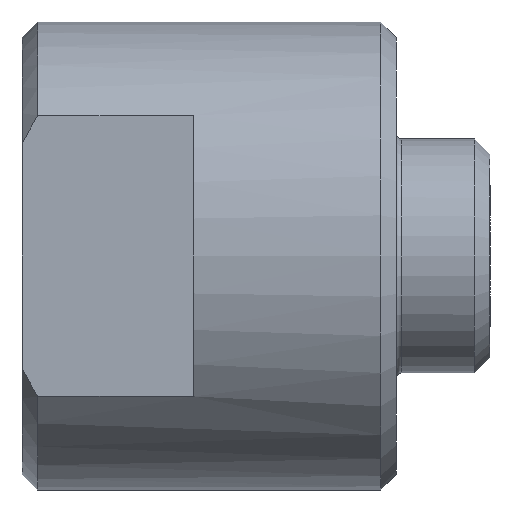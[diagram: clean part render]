
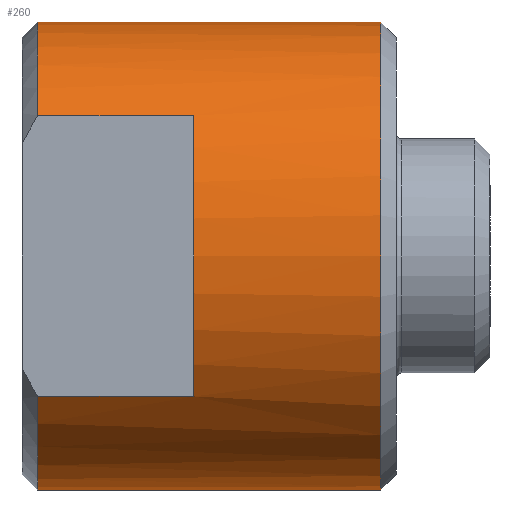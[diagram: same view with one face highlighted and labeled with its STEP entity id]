
A CAD part, left-side view. The second image highlights one B-rep face of the part: STEP entity #260.
In plain terms, the highlighted cylindrical face has radius 15 mm (diameter 30 mm), a partial arc.
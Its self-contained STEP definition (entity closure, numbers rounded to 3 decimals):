
#2 = DIRECTION ( 'NONE',  ( 0., -1., 0. ) ) ;
#29 = ORIENTED_EDGE ( 'NONE', *, *, #751, .T. ) ;
#74 = DIRECTION ( 'NONE',  ( 0., 1., 0. ) ) ;
#83 = LINE ( 'NONE', #415, #95 ) ;
#88 = CARTESIAN_POINT ( 'NONE',  ( 0., 29., -15. ) ) ;
#89 = EDGE_LOOP ( 'NONE', ( #375, #29, #368, #542, #588, #987, #198, #822 ) ) ;
#95 = VECTOR ( 'NONE', #2, 1000. ) ;
#118 = EDGE_CURVE ( 'NONE', #228, #859, #482, .T. ) ;
#144 = AXIS2_PLACEMENT_3D ( 'NONE', #497, #171, #756 ) ;
#165 = EDGE_CURVE ( 'NONE', #660, #920, #994, .T. ) ;
#171 = DIRECTION ( 'NONE',  ( 0., -1., 0. ) ) ;
#181 = AXIS2_PLACEMENT_3D ( 'NONE', #619, #805, #1021 ) ;
#186 = CARTESIAN_POINT ( 'NONE',  ( 0., 29., 0. ) ) ;
#195 = CIRCLE ( 'NONE', #181, 15. ) ;
#198 = ORIENTED_EDGE ( 'NONE', *, *, #657, .T. ) ;
#214 = CARTESIAN_POINT ( 'NONE',  ( -12., 19., -9. ) ) ;
#216 = EDGE_CURVE ( 'NONE', #447, #573, #488, .T. ) ;
#219 = CARTESIAN_POINT ( 'NONE',  ( 0., 7., 15. ) ) ;
#228 = VERTEX_POINT ( 'NONE', #973 ) ;
#237 = FACE_OUTER_BOUND ( 'NONE', #89, .T. ) ;
#258 = VERTEX_POINT ( 'NONE', #895 ) ;
#259 = EDGE_CURVE ( 'NONE', #258, #920, #419, .T. ) ;
#260 = ADVANCED_FACE ( 'NONE', ( #237 ), #416, .T. ) ;
#300 = VECTOR ( 'NONE', #431, 1000. ) ;
#325 = CARTESIAN_POINT ( 'NONE',  ( 0., 30., 15. ) ) ;
#329 = CARTESIAN_POINT ( 'NONE',  ( 0., 7., -15. ) ) ;
#336 = DIRECTION ( 'NONE',  ( 0., -1., 0. ) ) ;
#368 = ORIENTED_EDGE ( 'NONE', *, *, #118, .F. ) ;
#375 = ORIENTED_EDGE ( 'NONE', *, *, #259, .F. ) ;
#403 = EDGE_CURVE ( 'NONE', #868, #228, #195, .T. ) ;
#415 = CARTESIAN_POINT ( 'NONE',  ( 0., 30., -15. ) ) ;
#416 = CYLINDRICAL_SURFACE ( 'NONE', #930, 15. ) ;
#419 = LINE ( 'NONE', #325, #300 ) ;
#431 = DIRECTION ( 'NONE',  ( 0., -1., 0. ) ) ;
#447 = VERTEX_POINT ( 'NONE', #713 ) ;
#475 = DIRECTION ( 'NONE',  ( 0., -1., 0. ) ) ;
#482 = LINE ( 'NONE', #810, #675 ) ;
#488 = CIRCLE ( 'NONE', #144, 15. ) ;
#497 = CARTESIAN_POINT ( 'NONE',  ( 0., 29., 0. ) ) ;
#520 = VECTOR ( 'NONE', #475, 1000. ) ;
#542 = ORIENTED_EDGE ( 'NONE', *, *, #403, .F. ) ;
#568 = CARTESIAN_POINT ( 'NONE',  ( 0., 7., 0. ) ) ;
#573 = VERTEX_POINT ( 'NONE', #88 ) ;
#588 = ORIENTED_EDGE ( 'NONE', *, *, #879, .F. ) ;
#619 = CARTESIAN_POINT ( 'NONE',  ( 0., 19., 0. ) ) ;
#623 = CARTESIAN_POINT ( 'NONE',  ( -12., 29., 9. ) ) ;
#657 = EDGE_CURVE ( 'NONE', #573, #660, #83, .T. ) ;
#660 = VERTEX_POINT ( 'NONE', #329 ) ;
#666 = DIRECTION ( 'NONE',  ( 0., 0., -1. ) ) ;
#675 = VECTOR ( 'NONE', #74, 1000. ) ;
#695 = DIRECTION ( 'NONE',  ( 0., 0., 1. ) ) ;
#707 = LINE ( 'NONE', #950, #520 ) ;
#713 = CARTESIAN_POINT ( 'NONE',  ( -12., 29., -9. ) ) ;
#751 = EDGE_CURVE ( 'NONE', #258, #859, #980, .T. ) ;
#752 = DIRECTION ( 'NONE',  ( 0., 1., 0. ) ) ;
#756 = DIRECTION ( 'NONE',  ( 0., 0., 1. ) ) ;
#805 = DIRECTION ( 'NONE',  ( 0., 1., 0. ) ) ;
#810 = CARTESIAN_POINT ( 'NONE',  ( -12., 30., 9. ) ) ;
#822 = ORIENTED_EDGE ( 'NONE', *, *, #165, .T. ) ;
#833 = DIRECTION ( 'NONE',  ( 0., 0., -1. ) ) ;
#839 = DIRECTION ( 'NONE',  ( 0., -1., 0. ) ) ;
#859 = VERTEX_POINT ( 'NONE', #623 ) ;
#868 = VERTEX_POINT ( 'NONE', #214 ) ;
#879 = EDGE_CURVE ( 'NONE', #447, #868, #707, .T. ) ;
#895 = CARTESIAN_POINT ( 'NONE',  ( 0., 29., 15. ) ) ;
#900 = CARTESIAN_POINT ( 'NONE',  ( 0., 30., 0. ) ) ;
#920 = VERTEX_POINT ( 'NONE', #219 ) ;
#930 = AXIS2_PLACEMENT_3D ( 'NONE', #900, #336, #666 ) ;
#944 = AXIS2_PLACEMENT_3D ( 'NONE', #568, #752, #833 ) ;
#950 = CARTESIAN_POINT ( 'NONE',  ( -12., 30., -9. ) ) ;
#964 = AXIS2_PLACEMENT_3D ( 'NONE', #186, #839, #695 ) ;
#973 = CARTESIAN_POINT ( 'NONE',  ( -12., 19., 9. ) ) ;
#980 = CIRCLE ( 'NONE', #964, 15. ) ;
#987 = ORIENTED_EDGE ( 'NONE', *, *, #216, .T. ) ;
#994 = CIRCLE ( 'NONE', #944, 15. ) ;
#1021 = DIRECTION ( 'NONE',  ( 0., 0., 1. ) ) ;
